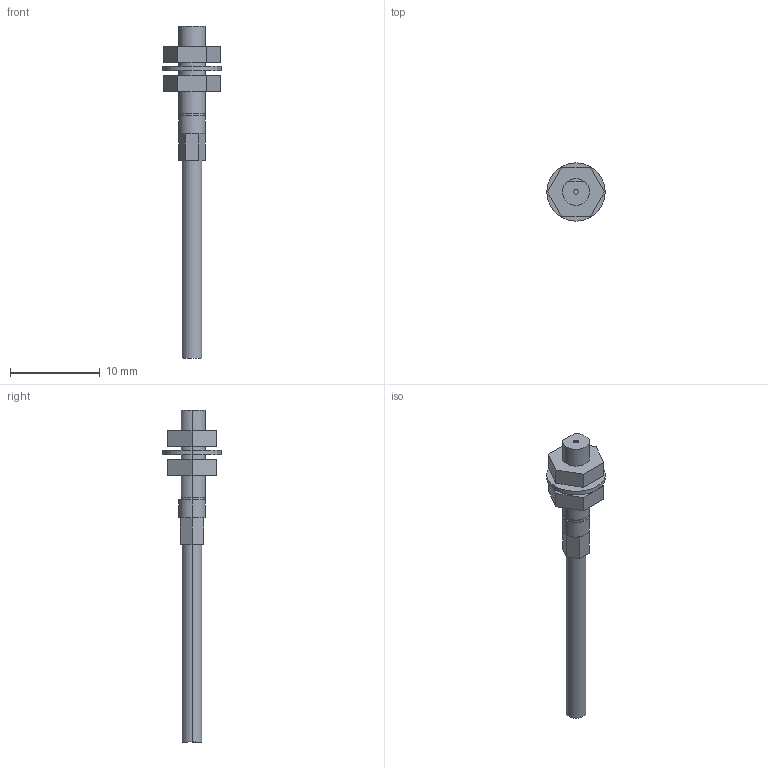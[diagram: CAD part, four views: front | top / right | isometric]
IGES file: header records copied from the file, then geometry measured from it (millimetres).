
Start section: SolidWorks IGES FILE using analytic representation for surfaces
Global section: file name: \\intra-srv04\開発データ\CAD_Data\CAD委員会\3D電子ｶﾀﾛｸﾞ\製品カタログ（新）\0_IGES\FT-W4.IGS,41HSolidWorks 2004; native system: by SolidWorks Corporation; preprocessor: Version 5.3; author: mf1158; date: 050908.112951; units: millimetre
Bounding box: 6.5 x 6.5 x 37 mm (x, y, z)
Volume: 264.1 mm3; surface area: 559.6 mm2
Topology: 5 solids, 5 shells, 58 faces, 124 edges, 78 vertices
Faces by surface type: plane 38, revolution 20
